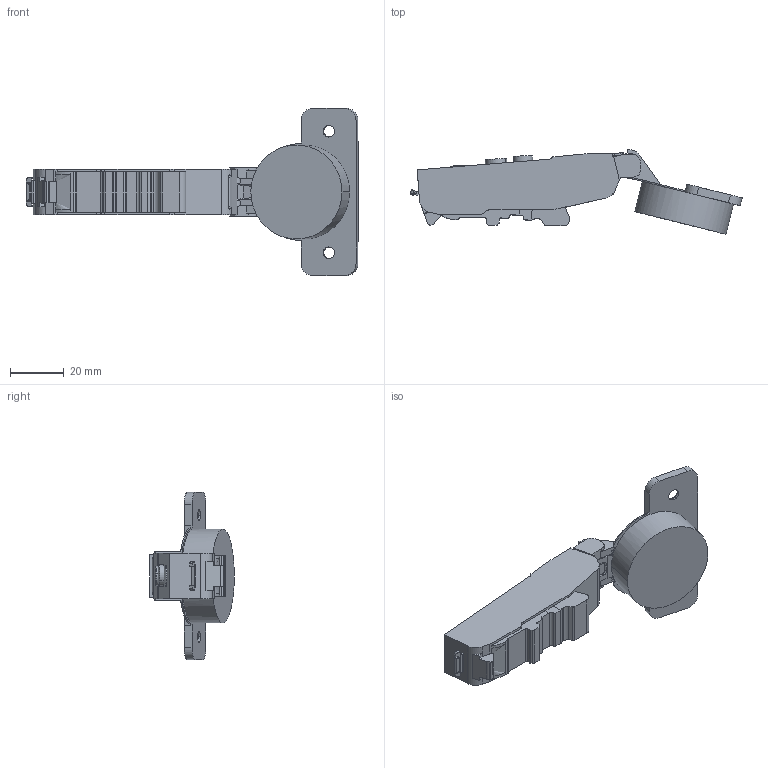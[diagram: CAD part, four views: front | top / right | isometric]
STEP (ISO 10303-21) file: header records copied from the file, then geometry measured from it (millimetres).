
FILE_DESCRIPTION (( 'STEP AP203' ), '1' );
FILE_NAME ('C81B875FAB DTC 3D OPEN.STEP', '2024-07-26T00:10:28', ( '微软用户' ), ( '微软中国' ), 'SwSTEP 2.0', 'SolidWorks 2021', '' );
FILE_SCHEMA (( 'CONFIG_CONTROL_DESIGN' ));
Length unit declared in the file: millimetre
Products named in the file (1): C81B875FAB DTC 3D OPEN
Bounding box: 122.99 x 31.32 x 62 mm (x, y, z)
Volume: 41504.4 mm3; surface area: 12361.2 mm2
Topology: 1 solids, 1 shells, 326 faces, 938 edges, 616 vertices
Faces by surface type: cylinder 138, plane 137, torus 26, bspline 19, cone 6
Entity records: 11734 total; most frequent: CARTESIAN_POINT 3224, ORIENTED_EDGE 1876, DIRECTION 1688, EDGE_CURVE 938, VERTEX_POINT 616, AXIS2_PLACEMENT_3D 601, VECTOR 486, LINE 486
